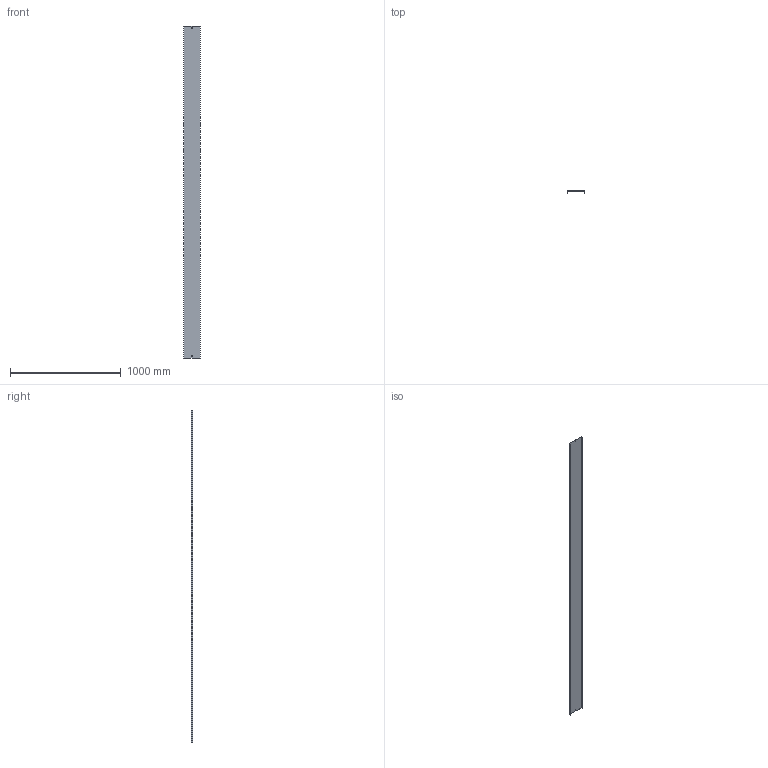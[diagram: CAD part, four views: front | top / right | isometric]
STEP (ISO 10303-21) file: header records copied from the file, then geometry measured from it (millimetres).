
FILE_DESCRIPTION (( 'STEP AP214' ), '1' );
FILE_NAME ('OCF_150.step', '2025-07-16T09:09:50', ( '' ), ( '' ), 'SwSTEP 2.0', 'SolidWorks 2023', '' );
FILE_SCHEMA (( 'AUTOMOTIVE_DESIGN' ));
Length unit declared in the file: millimetre
Products named in the file (1): OCF_150
Bounding box: 152 x 17 x 3000 mm (x, y, z)
Volume: 551916 mm3; surface area: 1110252 mm2
Topology: 1 solids, 1 shells, 18 faces, 48 edges, 32 vertices
Faces by surface type: plane 18
Entity records: 583 total; most frequent: CARTESIAN_POINT 99, ORIENTED_EDGE 96, DIRECTION 86, LINE 48, EDGE_CURVE 48, VECTOR 48, VERTEX_POINT 32, EDGE_LOOP 22
